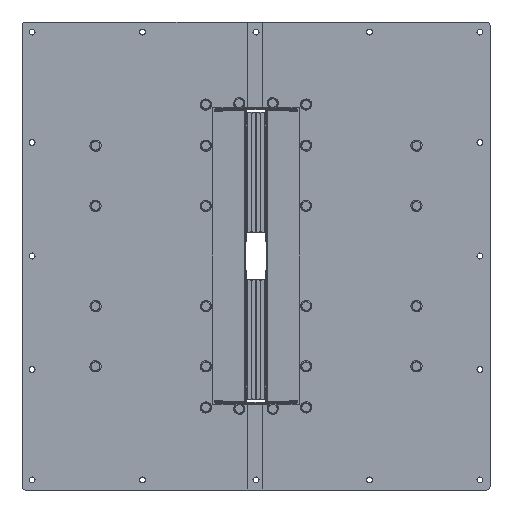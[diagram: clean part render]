
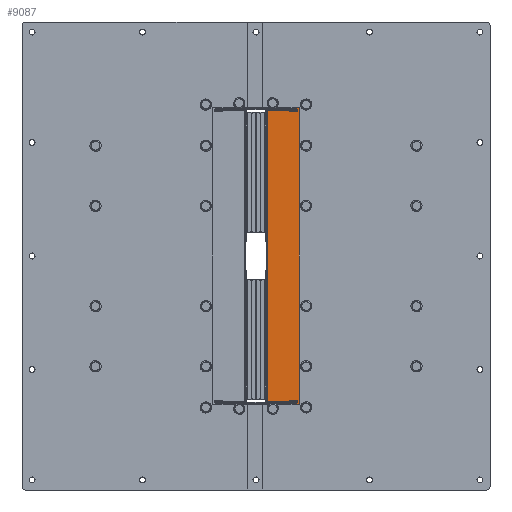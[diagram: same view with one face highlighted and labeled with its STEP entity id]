
A CAD part, left-side view. The second image highlights one B-rep face of the part: STEP entity #9087.
In plain terms, the highlighted planar face has unit normal (-1, 0, 0).
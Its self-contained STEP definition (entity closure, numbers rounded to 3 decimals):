
#8302=AXIS2_PLACEMENT_3D('Plane Axis2P3D',#8299,#8300,#8301) ;
#8436=AXIS2_PLACEMENT_3D('Circle Axis2P3D',#8434,#8435,$) ;
#8498=AXIS2_PLACEMENT_3D('Circle Axis2P3D',#8496,#8497,$) ;
#8767=AXIS2_PLACEMENT_3D('Circle Axis2P3D',#8765,#8766,$) ;
#8815=AXIS2_PLACEMENT_3D('Circle Axis2P3D',#8813,#8814,$) ;
#8981=AXIS2_PLACEMENT_3D('Circle Axis2P3D',#8979,#8980,$) ;
#8990=AXIS2_PLACEMENT_3D('Circle Axis2P3D',#8988,#8989,$) ;
#8999=AXIS2_PLACEMENT_3D('Circle Axis2P3D',#8997,#8998,$) ;
#9008=AXIS2_PLACEMENT_3D('Circle Axis2P3D',#9006,#9007,$) ;
#9017=AXIS2_PLACEMENT_3D('Circle Axis2P3D',#9015,#9016,$) ;
#9026=AXIS2_PLACEMENT_3D('Circle Axis2P3D',#9024,#9025,$) ;
#9035=AXIS2_PLACEMENT_3D('Circle Axis2P3D',#9033,#9034,$) ;
#9044=AXIS2_PLACEMENT_3D('Circle Axis2P3D',#9042,#9043,$) ;
#9053=AXIS2_PLACEMENT_3D('Circle Axis2P3D',#9051,#9052,$) ;
#9062=AXIS2_PLACEMENT_3D('Circle Axis2P3D',#9060,#9061,$) ;
#9071=AXIS2_PLACEMENT_3D('Circle Axis2P3D',#9069,#9070,$) ;
#9080=AXIS2_PLACEMENT_3D('Circle Axis2P3D',#9078,#9079,$) ;
#8299=CARTESIAN_POINT('Axis2P3D Location',(0.,0.,0.)) ;
#8340=CARTESIAN_POINT('Vertex',(0.,-60.,218.5)) ;
#8345=CARTESIAN_POINT('Line Origine',(0.,-60.,229.25)) ;
#8349=CARTESIAN_POINT('Vertex',(0.,-60.,240.)) ;
#8403=CARTESIAN_POINT('Line Origine',(0.,-69.,240.)) ;
#8407=CARTESIAN_POINT('Vertex',(0.,-78.,240.)) ;
#8434=CARTESIAN_POINT('Axis2P3D Location',(0.,-78.,235.)) ;
#8438=CARTESIAN_POINT('Vertex',(0.,-83.,235.)) ;
#8465=CARTESIAN_POINT('Line Origine',(0.,-83.,0.)) ;
#8469=CARTESIAN_POINT('Vertex',(0.,-83.,-235.)) ;
#8496=CARTESIAN_POINT('Axis2P3D Location',(0.,-78.,-235.)) ;
#8500=CARTESIAN_POINT('Vertex',(0.,-78.,-240.)) ;
#8527=CARTESIAN_POINT('Line Origine',(0.,-69.,-240.)) ;
#8531=CARTESIAN_POINT('Vertex',(0.,-60.,-240.)) ;
#8553=CARTESIAN_POINT('Line Origine',(0.,-60.,-229.25)) ;
#8557=CARTESIAN_POINT('Vertex',(0.,-60.,-218.5)) ;
#8592=CARTESIAN_POINT('Vertex',(0.,-60.,217.)) ;
#8595=CARTESIAN_POINT('Line Origine',(0.,-60.,217.75)) ;
#8628=CARTESIAN_POINT('Vertex',(0.,-17.22,217.)) ;
#8631=CARTESIAN_POINT('Line Origine',(0.,-38.61,217.)) ;
#8762=CARTESIAN_POINT('Vertex',(0.,-16.72,216.5)) ;
#8765=CARTESIAN_POINT('Axis2P3D Location',(0.,-17.22,216.5)) ;
#8786=CARTESIAN_POINT('Vertex',(0.,-16.72,-216.5)) ;
#8789=CARTESIAN_POINT('Line Origine',(0.,-16.72,0.)) ;
#8810=CARTESIAN_POINT('Vertex',(0.,-17.22,-217.)) ;
#8813=CARTESIAN_POINT('Axis2P3D Location',(0.,-17.22,-216.5)) ;
#8834=CARTESIAN_POINT('Vertex',(0.,-60.,-217.)) ;
#8837=CARTESIAN_POINT('Line Origine',(0.,-38.61,-217.)) ;
#8854=CARTESIAN_POINT('Line Origine',(0.,-60.,-217.75)) ;
#8979=CARTESIAN_POINT('Axis2P3D Location',(0.,-73.5,165.)) ;
#8983=CARTESIAN_POINT('Vertex',(0.,-79.,165.)) ;
#8985=CARTESIAN_POINT('Vertex',(0.,-68.,165.)) ;
#8988=CARTESIAN_POINT('Axis2P3D Location',(0.,-73.5,165.)) ;
#8997=CARTESIAN_POINT('Axis2P3D Location',(0.,-73.5,75.)) ;
#9001=CARTESIAN_POINT('Vertex',(0.,-79.,75.)) ;
#9003=CARTESIAN_POINT('Vertex',(0.,-68.,75.)) ;
#9006=CARTESIAN_POINT('Axis2P3D Location',(0.,-73.5,75.)) ;
#9015=CARTESIAN_POINT('Axis2P3D Location',(0.,-73.5,-75.)) ;
#9019=CARTESIAN_POINT('Vertex',(0.,-79.,-75.)) ;
#9021=CARTESIAN_POINT('Vertex',(0.,-68.,-75.)) ;
#9024=CARTESIAN_POINT('Axis2P3D Location',(0.,-73.5,-75.)) ;
#9033=CARTESIAN_POINT('Axis2P3D Location',(0.,-73.5,-165.)) ;
#9037=CARTESIAN_POINT('Vertex',(0.,-79.,-165.)) ;
#9039=CARTESIAN_POINT('Vertex',(0.,-68.,-165.)) ;
#9042=CARTESIAN_POINT('Axis2P3D Location',(0.,-73.5,-165.)) ;
#9051=CARTESIAN_POINT('Axis2P3D Location',(0.,-73.5,226.5)) ;
#9055=CARTESIAN_POINT('Vertex',(0.,-79.,226.5)) ;
#9057=CARTESIAN_POINT('Vertex',(0.,-68.,226.5)) ;
#9060=CARTESIAN_POINT('Axis2P3D Location',(0.,-73.5,226.5)) ;
#9069=CARTESIAN_POINT('Axis2P3D Location',(0.,-73.5,-226.5)) ;
#9073=CARTESIAN_POINT('Vertex',(0.,-79.,-226.5)) ;
#9075=CARTESIAN_POINT('Vertex',(0.,-68.,-226.5)) ;
#9078=CARTESIAN_POINT('Axis2P3D Location',(0.,-73.5,-226.5)) ;
#8300=DIRECTION('Axis2P3D Direction',(1.,0.,0.)) ;
#8301=DIRECTION('Axis2P3D XDirection',(0.,1.,0.)) ;
#8346=DIRECTION('Vector Direction',(0.,0.,-1.)) ;
#8404=DIRECTION('Vector Direction',(0.,-1.,0.)) ;
#8435=DIRECTION('Axis2P3D Direction',(1.,0.,0.)) ;
#8466=DIRECTION('Vector Direction',(0.,0.,1.)) ;
#8497=DIRECTION('Axis2P3D Direction',(1.,0.,0.)) ;
#8528=DIRECTION('Vector Direction',(0.,1.,0.)) ;
#8554=DIRECTION('Vector Direction',(0.,0.,-1.)) ;
#8596=DIRECTION('Vector Direction',(0.,0.,-1.)) ;
#8632=DIRECTION('Vector Direction',(0.,1.,0.)) ;
#8766=DIRECTION('Axis2P3D Direction',(1.,0.,0.)) ;
#8790=DIRECTION('Vector Direction',(0.,0.,1.)) ;
#8814=DIRECTION('Axis2P3D Direction',(1.,0.,0.)) ;
#8838=DIRECTION('Vector Direction',(0.,-1.,0.)) ;
#8855=DIRECTION('Vector Direction',(0.,0.,-1.)) ;
#8980=DIRECTION('Axis2P3D Direction',(1.,0.,0.)) ;
#8989=DIRECTION('Axis2P3D Direction',(1.,0.,0.)) ;
#8998=DIRECTION('Axis2P3D Direction',(1.,0.,0.)) ;
#9007=DIRECTION('Axis2P3D Direction',(1.,0.,0.)) ;
#9016=DIRECTION('Axis2P3D Direction',(1.,0.,0.)) ;
#9025=DIRECTION('Axis2P3D Direction',(1.,0.,0.)) ;
#9034=DIRECTION('Axis2P3D Direction',(1.,0.,0.)) ;
#9043=DIRECTION('Axis2P3D Direction',(1.,0.,0.)) ;
#9052=DIRECTION('Axis2P3D Direction',(1.,0.,0.)) ;
#9061=DIRECTION('Axis2P3D Direction',(1.,0.,0.)) ;
#9070=DIRECTION('Axis2P3D Direction',(1.,0.,0.)) ;
#9079=DIRECTION('Axis2P3D Direction',(1.,0.,0.)) ;
#8347=VECTOR('Line Direction',#8346,1.) ;
#8405=VECTOR('Line Direction',#8404,1.) ;
#8467=VECTOR('Line Direction',#8466,1.) ;
#8529=VECTOR('Line Direction',#8528,1.) ;
#8555=VECTOR('Line Direction',#8554,1.) ;
#8597=VECTOR('Line Direction',#8596,1.) ;
#8633=VECTOR('Line Direction',#8632,1.) ;
#8791=VECTOR('Line Direction',#8790,1.) ;
#8839=VECTOR('Line Direction',#8838,1.) ;
#8856=VECTOR('Line Direction',#8855,1.) ;
#8964=ORIENTED_EDGE('',*,*,#8599,.T.) ;
#8965=ORIENTED_EDGE('',*,*,#8635,.T.) ;
#8966=ORIENTED_EDGE('',*,*,#8769,.T.) ;
#8967=ORIENTED_EDGE('',*,*,#8793,.T.) ;
#8968=ORIENTED_EDGE('',*,*,#8817,.T.) ;
#8969=ORIENTED_EDGE('',*,*,#8841,.T.) ;
#8970=ORIENTED_EDGE('',*,*,#8858,.T.) ;
#8971=ORIENTED_EDGE('',*,*,#8559,.F.) ;
#8972=ORIENTED_EDGE('',*,*,#8533,.F.) ;
#8973=ORIENTED_EDGE('',*,*,#8502,.F.) ;
#8974=ORIENTED_EDGE('',*,*,#8471,.F.) ;
#8975=ORIENTED_EDGE('',*,*,#8440,.F.) ;
#8976=ORIENTED_EDGE('',*,*,#8409,.F.) ;
#8977=ORIENTED_EDGE('',*,*,#8351,.F.) ;
#8994=ORIENTED_EDGE('',*,*,#8987,.T.) ;
#8995=ORIENTED_EDGE('',*,*,#8992,.T.) ;
#9012=ORIENTED_EDGE('',*,*,#9005,.T.) ;
#9013=ORIENTED_EDGE('',*,*,#9010,.T.) ;
#9030=ORIENTED_EDGE('',*,*,#9023,.T.) ;
#9031=ORIENTED_EDGE('',*,*,#9028,.T.) ;
#9048=ORIENTED_EDGE('',*,*,#9041,.T.) ;
#9049=ORIENTED_EDGE('',*,*,#9046,.T.) ;
#9066=ORIENTED_EDGE('',*,*,#9059,.T.) ;
#9067=ORIENTED_EDGE('',*,*,#9064,.T.) ;
#9084=ORIENTED_EDGE('',*,*,#9077,.T.) ;
#9085=ORIENTED_EDGE('',*,*,#9082,.T.) ;
#8996=FACE_BOUND('',#8993,.T.) ;
#9014=FACE_BOUND('',#9011,.T.) ;
#9032=FACE_BOUND('',#9029,.T.) ;
#9050=FACE_BOUND('',#9047,.T.) ;
#9068=FACE_BOUND('',#9065,.T.) ;
#9086=FACE_BOUND('',#9083,.T.) ;
#9087=ADVANCED_FACE('Laterale(L3)',(#8978,#8996,#9014,#9032,#9050,#9068,#9086),#8303,.F.) ;
#8437=CIRCLE('generated circle',#8436,5.) ;
#8499=CIRCLE('generated circle',#8498,5.) ;
#8768=CIRCLE('generated circle',#8767,0.5) ;
#8816=CIRCLE('generated circle',#8815,0.5) ;
#8982=CIRCLE('generated circle',#8981,5.5) ;
#8991=CIRCLE('generated circle',#8990,5.5) ;
#9000=CIRCLE('generated circle',#8999,5.5) ;
#9009=CIRCLE('generated circle',#9008,5.5) ;
#9018=CIRCLE('generated circle',#9017,5.5) ;
#9027=CIRCLE('generated circle',#9026,5.5) ;
#9036=CIRCLE('generated circle',#9035,5.5) ;
#9045=CIRCLE('generated circle',#9044,5.5) ;
#9054=CIRCLE('generated circle',#9053,5.5) ;
#9063=CIRCLE('generated circle',#9062,5.5) ;
#9072=CIRCLE('generated circle',#9071,5.5) ;
#9081=CIRCLE('generated circle',#9080,5.5) ;
#8351=EDGE_CURVE('',#8341,#8350,#8348,.F.) ;
#8409=EDGE_CURVE('',#8350,#8408,#8406,.T.) ;
#8440=EDGE_CURVE('',#8408,#8439,#8437,.T.) ;
#8471=EDGE_CURVE('',#8439,#8470,#8468,.F.) ;
#8502=EDGE_CURVE('',#8470,#8501,#8499,.T.) ;
#8533=EDGE_CURVE('',#8501,#8532,#8530,.T.) ;
#8559=EDGE_CURVE('',#8532,#8558,#8556,.F.) ;
#8599=EDGE_CURVE('',#8341,#8593,#8598,.T.) ;
#8635=EDGE_CURVE('',#8593,#8629,#8634,.T.) ;
#8769=EDGE_CURVE('',#8629,#8763,#8768,.F.) ;
#8793=EDGE_CURVE('',#8763,#8787,#8792,.F.) ;
#8817=EDGE_CURVE('',#8787,#8811,#8816,.F.) ;
#8841=EDGE_CURVE('',#8811,#8835,#8840,.T.) ;
#8858=EDGE_CURVE('',#8835,#8558,#8857,.T.) ;
#8987=EDGE_CURVE('',#8984,#8986,#8982,.T.) ;
#8992=EDGE_CURVE('',#8986,#8984,#8991,.T.) ;
#9005=EDGE_CURVE('',#9002,#9004,#9000,.T.) ;
#9010=EDGE_CURVE('',#9004,#9002,#9009,.T.) ;
#9023=EDGE_CURVE('',#9020,#9022,#9018,.T.) ;
#9028=EDGE_CURVE('',#9022,#9020,#9027,.T.) ;
#9041=EDGE_CURVE('',#9038,#9040,#9036,.T.) ;
#9046=EDGE_CURVE('',#9040,#9038,#9045,.T.) ;
#9059=EDGE_CURVE('',#9056,#9058,#9054,.T.) ;
#9064=EDGE_CURVE('',#9058,#9056,#9063,.T.) ;
#9077=EDGE_CURVE('',#9074,#9076,#9072,.T.) ;
#9082=EDGE_CURVE('',#9076,#9074,#9081,.T.) ;
#8963=EDGE_LOOP('',(#8964,#8965,#8966,#8967,#8968,#8969,#8970,#8971,#8972,#8973,#8974,#8975,#8976,#8977)) ;
#8993=EDGE_LOOP('',(#8994,#8995)) ;
#9011=EDGE_LOOP('',(#9012,#9013)) ;
#9029=EDGE_LOOP('',(#9030,#9031)) ;
#9047=EDGE_LOOP('',(#9048,#9049)) ;
#9065=EDGE_LOOP('',(#9066,#9067)) ;
#9083=EDGE_LOOP('',(#9084,#9085)) ;
#8978=FACE_OUTER_BOUND('',#8963,.T.) ;
#8348=LINE('Line',#8345,#8347) ;
#8406=LINE('Line',#8403,#8405) ;
#8468=LINE('Line',#8465,#8467) ;
#8530=LINE('Line',#8527,#8529) ;
#8556=LINE('Line',#8553,#8555) ;
#8598=LINE('Line',#8595,#8597) ;
#8634=LINE('Line',#8631,#8633) ;
#8792=LINE('Line',#8789,#8791) ;
#8840=LINE('Line',#8837,#8839) ;
#8857=LINE('Line',#8854,#8856) ;
#8303=PLANE('',#8302) ;
#8341=VERTEX_POINT('',#8340) ;
#8350=VERTEX_POINT('',#8349) ;
#8408=VERTEX_POINT('',#8407) ;
#8439=VERTEX_POINT('',#8438) ;
#8470=VERTEX_POINT('',#8469) ;
#8501=VERTEX_POINT('',#8500) ;
#8532=VERTEX_POINT('',#8531) ;
#8558=VERTEX_POINT('',#8557) ;
#8593=VERTEX_POINT('',#8592) ;
#8629=VERTEX_POINT('',#8628) ;
#8763=VERTEX_POINT('',#8762) ;
#8787=VERTEX_POINT('',#8786) ;
#8811=VERTEX_POINT('',#8810) ;
#8835=VERTEX_POINT('',#8834) ;
#8984=VERTEX_POINT('',#8983) ;
#8986=VERTEX_POINT('',#8985) ;
#9002=VERTEX_POINT('',#9001) ;
#9004=VERTEX_POINT('',#9003) ;
#9020=VERTEX_POINT('',#9019) ;
#9022=VERTEX_POINT('',#9021) ;
#9038=VERTEX_POINT('',#9037) ;
#9040=VERTEX_POINT('',#9039) ;
#9056=VERTEX_POINT('',#9055) ;
#9058=VERTEX_POINT('',#9057) ;
#9074=VERTEX_POINT('',#9073) ;
#9076=VERTEX_POINT('',#9075) ;
